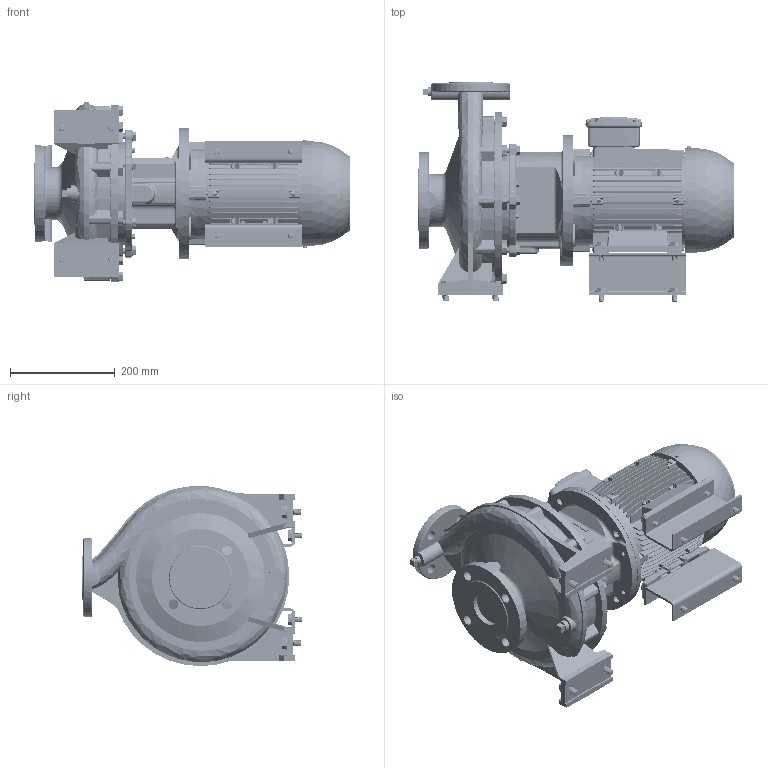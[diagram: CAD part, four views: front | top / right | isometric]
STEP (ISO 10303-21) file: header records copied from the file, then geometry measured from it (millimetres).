
FILE_DESCRIPTION (( 'STEP AP214' ), '1' );
FILE_NAME ('GSD4 40-250_2.2 & 3.0_(100L)_W21.STEP', '2026-06-18T05:49:07', ( '' ), ( '' ), 'SwSTEP 2.0', 'SolidWorks 2024', '' );
FILE_SCHEMA (( 'AUTOMOTIVE_DESIGN' ));
Length unit declared in the file: millimetre
Products named in the file (12): 100L ALIE3_W21T_B35; 40-250-100L_ﾃﾞﾌｫﾙﾄ; GSD4 40-250_2.2 & 3.0_(100L)_W21; Parametric bolt and washer_SFT-A249B; Parametric bolt and washer_SFT-A299B; Parametric Flat Washer_M12; Parametric bolt_SFT-A299B; Parametric bolt_SFT-A249B; 140 x 80 - 271472220; Parametric bolt and washer_SFT-A253B; Parametric Flat Washer_M10; Parametric bolt_SFT-A253B
Assembly tree (22 placements, depth 3):
  GSD4 40-250_2.2 & 3.0_(100L)_W21
    40-250-100L_ﾃﾞﾌｫﾙﾄ
    100L ALIE3_W21T_B35
    140 x 80 - 271472220  x2
    Parametric bolt and washer_SFT-A299B  x4
      Parametric bolt_SFT-A299B
      Parametric Flat Washer_M12
    Parametric bolt and washer_SFT-A253B  x4
      Parametric bolt_SFT-A253B
      Parametric Flat Washer_M10
    Parametric bolt and washer_SFT-A249B  x4
      Parametric bolt_SFT-A249B
      Parametric Flat Washer_M10
Bounding box: 602.1 x 418 x 343.87 mm (x, y, z)
Volume: 18949510 mm3; surface area: 1561958.3 mm2
Topology: 41 solids, 41 shells, 4473 faces, 11608 edges, 7453 vertices
Faces by surface type: plane 2443, cylinder 1205, torus 314, bspline 250, cone 243, sphere 18
Entity records: 186074 total; most frequent: CARTESIAN_POINT 91267, ORIENTED_EDGE 20462, DIRECTION 18416, EDGE_CURVE 10231, VERTEX_POINT 6573, VECTOR 6292, LINE 6292, AXIS2_PLACEMENT_3D 6062
